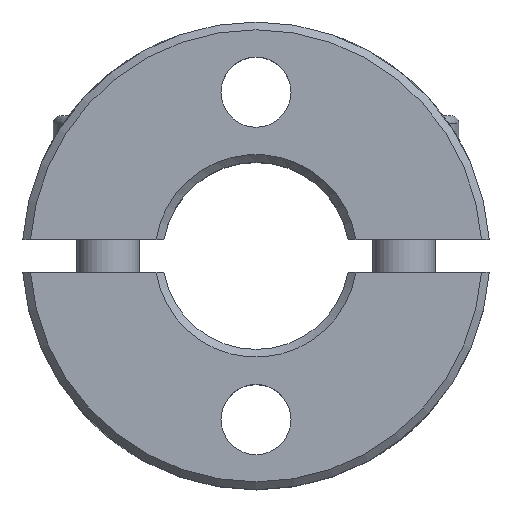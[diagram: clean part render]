
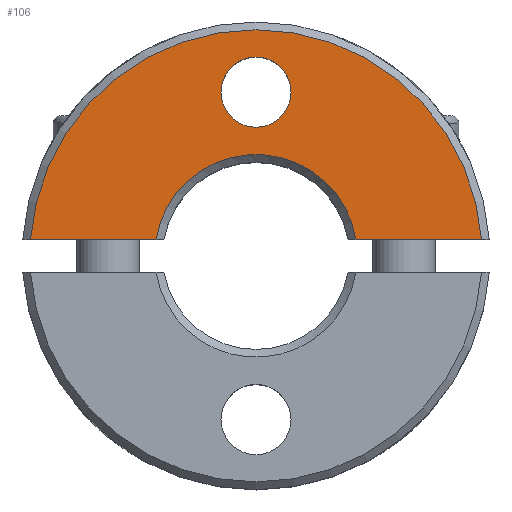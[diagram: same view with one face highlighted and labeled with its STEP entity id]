
A CAD part, top view. The second image highlights one B-rep face of the part: STEP entity #106.
In plain terms, the highlighted planar face has unit normal (0, 0, 1).
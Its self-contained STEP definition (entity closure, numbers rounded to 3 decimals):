
#106 = ADVANCED_FACE( '', ( #215, #216 ), #217, .T. );
#215 = FACE_OUTER_BOUND( '', #365, .T. );
#216 = FACE_BOUND( '', #366, .T. );
#217 = PLANE( '', #367 );
#365 = EDGE_LOOP( '', ( #638, #639, #640, #641 ) );
#366 = EDGE_LOOP( '', ( #642 ) );
#367 = AXIS2_PLACEMENT_3D( '', #643, #644, #645 );
#638 = ORIENTED_EDGE( '', *, *, #865, .F. );
#639 = ORIENTED_EDGE( '', *, *, #904, .T. );
#640 = ORIENTED_EDGE( '', *, *, #899, .F. );
#641 = ORIENTED_EDGE( '', *, *, #854, .F. );
#642 = ORIENTED_EDGE( '', *, *, #894, .T. );
#643 = CARTESIAN_POINT( '', ( 0., 6.5, 5.5 ) );
#644 = DIRECTION( '', ( 0., 0., 1. ) );
#645 = DIRECTION( '', ( 1., 0., 0. ) );
#854 = EDGE_CURVE( '', #988, #989, #990, .T. );
#865 = EDGE_CURVE( '', #1007, #988, #1009, .T. );
#894 = EDGE_CURVE( '', #1059, #1059, #1060, .F. );
#899 = EDGE_CURVE( '', #989, #1068, #1069, .T. );
#904 = EDGE_CURVE( '', #1007, #1068, #1075, .T. );
#988 = VERTEX_POINT( '', #1387 );
#989 = VERTEX_POINT( '', #1388 );
#990 = CIRCLE( '', #1389, 6.5 );
#1007 = VERTEX_POINT( '', #1420 );
#1009 = LINE( '', #1425, #1426 );
#1059 = VERTEX_POINT( '', #1538 );
#1060 = CIRCLE( '', #1539, 2.25 );
#1068 = VERTEX_POINT( '', #1548 );
#1069 = LINE( '', #1549, #1550 );
#1075 = CIRCLE( '', #1561, 14.5 );
#1387 = CARTESIAN_POINT( '', ( 6.415, 1.05, 5.5 ) );
#1388 = CARTESIAN_POINT( '', ( -6.415, 1.05, 5.5 ) );
#1389 = AXIS2_PLACEMENT_3D( '', #1691, #1692, #1693 );
#1420 = CARTESIAN_POINT( '', ( 14.462, 1.05, 5.5 ) );
#1425 = CARTESIAN_POINT( '', ( 17., 1.05, 5.5 ) );
#1426 = VECTOR( '', #1705, 1000. );
#1538 = CARTESIAN_POINT( '', ( 2.25, 10.5, 5.5 ) );
#1539 = AXIS2_PLACEMENT_3D( '', #1749, #1750, #1751 );
#1548 = CARTESIAN_POINT( '', ( -14.462, 1.05, 5.5 ) );
#1549 = CARTESIAN_POINT( '', ( 0., 1.05, 5.5 ) );
#1550 = VECTOR( '', #1762, 1000. );
#1561 = AXIS2_PLACEMENT_3D( '', #1768, #1769, #1770 );
#1691 = CARTESIAN_POINT( '', ( 0., 0., 5.5 ) );
#1692 = DIRECTION( '', ( 0., 0., 1. ) );
#1693 = DIRECTION( '', ( 1., 0., 0. ) );
#1705 = DIRECTION( '', ( -1., 0., 0. ) );
#1749 = CARTESIAN_POINT( '', ( 0., 10.5, 5.5 ) );
#1750 = DIRECTION( '', ( 0., 0., 1. ) );
#1751 = DIRECTION( '', ( 1., 0., 0. ) );
#1762 = DIRECTION( '', ( -1., 0., 0. ) );
#1768 = CARTESIAN_POINT( '', ( 0., 0., 5.5 ) );
#1769 = DIRECTION( '', ( 0., 0., 1. ) );
#1770 = DIRECTION( '', ( 1., 0., 0. ) );
